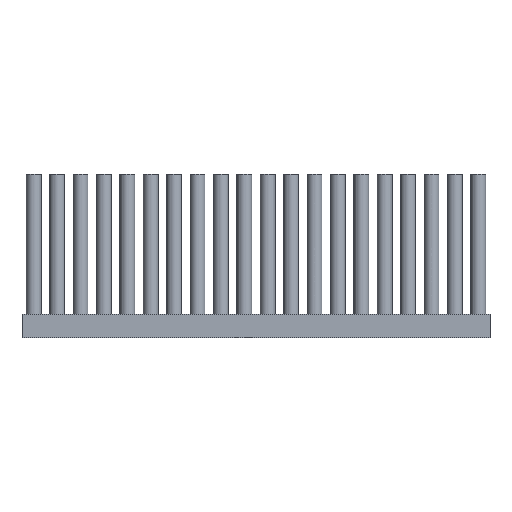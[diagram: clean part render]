
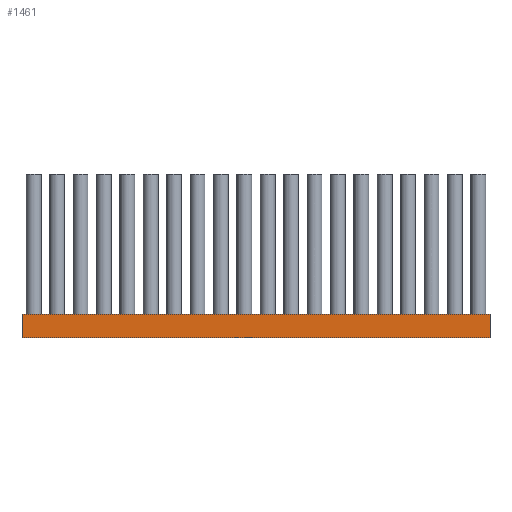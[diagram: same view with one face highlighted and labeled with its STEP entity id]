
A CAD part, left-side view. The second image highlights one B-rep face of the part: STEP entity #1461.
In plain terms, the highlighted planar face has unit normal (-1, 0, 0).
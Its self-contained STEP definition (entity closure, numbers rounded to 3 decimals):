
#435=FACE_OUTER_BOUND('',#4874,.T.);
#1461=ADVANCED_FACE('',(#435),#1807,.F.);
#1807=PLANE('',#9029);
#4874=EDGE_LOOP('',(#6243,#6244,#6245,#6246));
#6243=ORIENTED_EDGE('',*,*,#6951,.T.);
#6244=ORIENTED_EDGE('',*,*,#7635,.F.);
#6245=ORIENTED_EDGE('',*,*,#7636,.T.);
#6246=ORIENTED_EDGE('',*,*,#7637,.T.);
#6263=VERTEX_POINT('',#11782);
#6264=VERTEX_POINT('',#11783);
#6947=VERTEX_POINT('',#13831);
#6948=VERTEX_POINT('',#13833);
#6951=EDGE_CURVE('',#6263,#6264,#7643,.T.);
#7635=EDGE_CURVE('',#6947,#6264,#7647,.T.);
#7636=EDGE_CURVE('',#6947,#6948,#7648,.T.);
#7637=EDGE_CURVE('',#6948,#6263,#7649,.T.);
#7643=LINE('',#11781,#7655);
#7647=LINE('',#13830,#7659);
#7648=LINE('',#13832,#7660);
#7649=LINE('',#13834,#7661);
#7655=VECTOR('',#9036,1.);
#7659=VECTOR('',#11762,1.);
#7660=VECTOR('',#11763,1.);
#7661=VECTOR('',#11764,1.);
#9029=AXIS2_PLACEMENT_3D('',#13835,#11765,#11766);
#9036=DIRECTION('',(0.,1.,0.));
#11762=DIRECTION('',(0.,0.,1.));
#11763=DIRECTION('',(0.,-1.,0.));
#11764=DIRECTION('',(0.,0.,1.));
#11765=DIRECTION('',(1.,0.,0.));
#11766=DIRECTION('',(0.,0.,-1.));
#11781=CARTESIAN_POINT('',(-47.1,-66.05,15.));
#11782=CARTESIAN_POINT('',(-47.1,-49.5,15.));
#11783=CARTESIAN_POINT('',(-47.1,50.5,15.));
#13830=CARTESIAN_POINT('',(-47.1,50.5,45.));
#13831=CARTESIAN_POINT('',(-47.1,50.5,10.));
#13832=CARTESIAN_POINT('',(-47.1,50.5,10.));
#13833=CARTESIAN_POINT('',(-47.1,-49.5,10.));
#13834=CARTESIAN_POINT('',(-47.1,-49.5,45.));
#13835=CARTESIAN_POINT('',(-47.1,50.5,45.));
